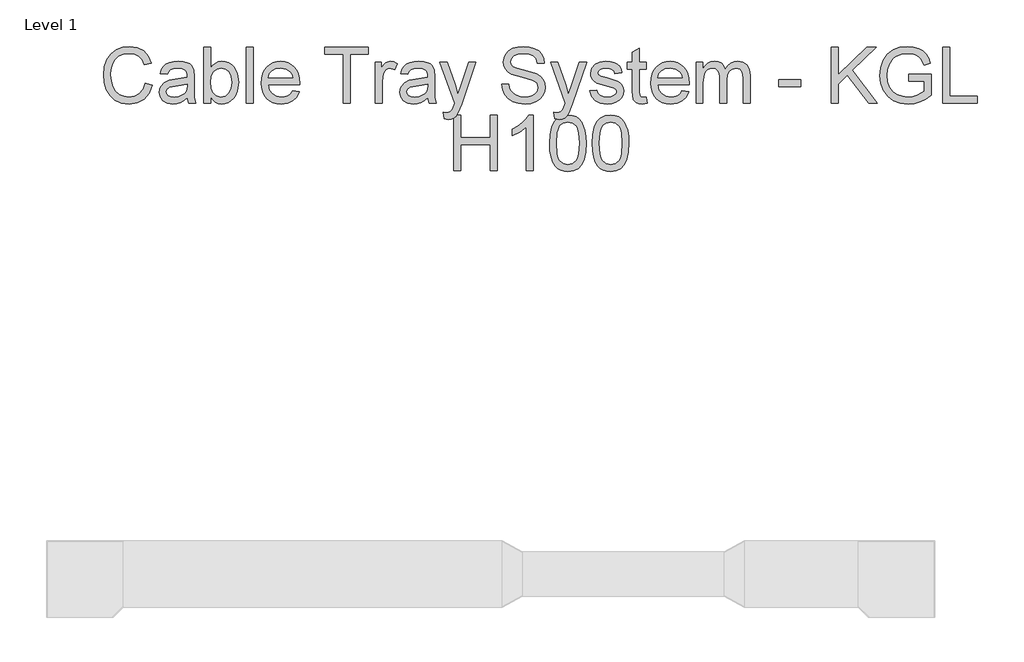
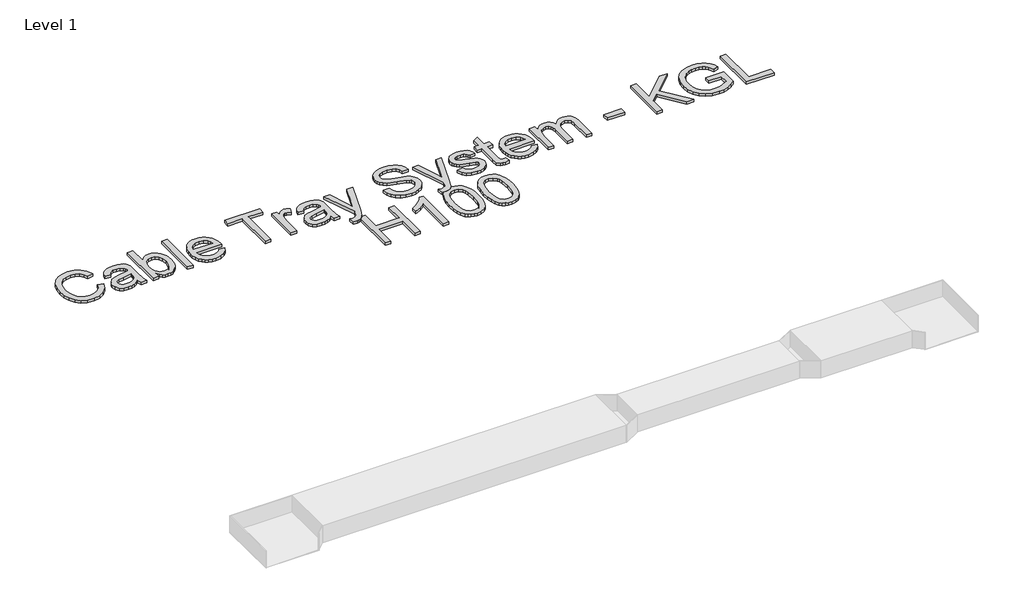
# One storey, part 105 of 106: 1 proxy.
"""IFC4 building model written with IfcOpenShell, lengths in millimetres."""

from ifc_helpers import new_model, si_unit, origin, origin_with_axes, place, context, project, spatial, polyline, outline, extrude, element, save

model = new_model("IFC4")

# Units and contexts
model_context = context("Model", 3, world=origin())
ifc_project = project(units=[si_unit("LENGTHUNIT", "METRE", prefix="MILLI")], contexts=[model_context])

# Site, building, storey
site = spatial("IfcSite", under=ifc_project)
building = spatial("IfcBuilding", under=site)
storey = spatial("IfcBuildingStorey", under=building, Name="Level 1", Elevation=0.0)

# Proxy
placement = place(None, origin())
element("IfcBuildingElementProxy", 1, Name="250mm Arial 3", ObjectType="250mm Arial 3", at=placement, inside=storey, context=model_context, shape_type="SweptSolid", body=[
    extrude(outline(polyline([(165651.7804894, 71592.4106539), (165683.1730863, 71584.31725), (165668.6877328, 71547.7359841), (165645.9556912, 71521.01089), (165616.0959359, 71504.6631338), (165580.2274414, 71499.2138818), (165543.814788, 71503.3372258), (165514.8977304, 71515.7072579), (165492.7328402, 71535.8947824), (165476.5766892, 71563.4706036), (165466.7128532, 71595.8902044), (165463.4249079, 71630.6090677), (165467.1420489, 71667.2286547), (165478.2934719, 71698.8511778), (165496.296697, 71724.472626), (165520.5692445, 71743.0889877), (165549.3560106, 71754.4243517), (165580.9018917, 71758.2028064), (165615.3218509, 71753.3130415), (165643.779056, 71738.643747), (165665.384459, 71715.0992993), (165679.2490117, 71683.584075), (165647.8564148, 71676.1038078), (165636.9732391, 71698.9967978), (165622.1046751, 71714.7007605), (165603.0667819, 71723.7828472), (165579.6756184, 71726.8102095), (165552.7129338, 71723.4532863), (165530.563372, 71713.3825166), (165513.7557634, 71697.6555613), (165502.8189382, 71677.3300811), (165496.8178632, 71654.3527848), (165494.8175048, 71630.6703814), (165497.1857452, 71601.6690174), (165504.2904662, 71576.5917281), (165516.3999152, 71556.3965394), (165533.7823395, 71542.0414774), (165554.6213216, 71533.4652284), (165577.1004444, 71530.6064787), (165603.3043723, 71534.4998965), (165625.1397016, 71546.1801498), (165641.6254135, 71565.5246114), (165651.7804894, 71592.4106539)])), origin_with_axes(), (0.0, 0.0, 1.0), 15.0),
    extrude(outline(polyline([(165840.1360709, 71526.6824041), (165825.1372154, 71513.8218627), (165809.6938358, 71505.406562), (165793.4533786, 71500.7620518), (165776.0632901, 71499.2138818), (165749.8287053, 71502.938687), (165730.4765796, 71514.1131026), (165718.5434073, 71531.0816596), (165714.5656833, 71552.1888891), (165716.0678681, 71565.2027147), (165720.5744225, 71577.0209238), (165736.3626915, 71595.0471415), (165758.3436407, 71605.3478374), (165785.5055947, 71610.0689897), (165839.95213, 71620.8601949), (165840.1360709, 71627.8499528), (165837.9747642, 71641.8601254), (165831.4908441, 71651.0265185), (165816.9901621, 71657.8323354), (165796.7873092, 71660.100941), (165778.0866411, 71658.591092), (165765.0268303, 71654.0615449), (165756.1210203, 71645.6845653), (165749.8823548, 71632.6324187), (165718.4897579, 71636.5564933), (165723.9390099, 71653.7243198), (165732.0707349, 71667.2133262), (165743.6436893, 71677.5293505), (165759.4166298, 71685.1782303), (165778.707442, 71689.914711), (165800.8340111, 71691.4935379), (165822.0562037, 71690.098652), (165838.8791408, 71685.9139943), (165851.5634054, 71679.6216794), (165860.3695807, 71671.9038217), (165869.9958262, 71650.5973228), (165871.5286679, 71623.1288005), (165871.5286679, 71584.0719953), (165873.1228232, 71529.5334895), (165879.3768171, 71503.1379564), (165847.9842202, 71503.1379564), (165840.1360709, 71526.6824041)]), holes=[polyline([(165840.1360709, 71589.4675979), (165789.4909829, 71579.8413524), (165762.4823131, 71574.7523181), (165750.2502368, 71566.4749732), (165745.9582802, 71554.3961811), (165748.2958637, 71545.0611754), (165755.3086142, 71537.4122956), (165766.8432476, 71532.3079329), (165782.7464797, 71530.6064787), (165799.6077378, 71532.4842097), (165814.5069586, 71538.1174028), (165826.5857508, 71546.4177403), (165834.985723, 71556.2969047), (165838.7105282, 71566.4749732), (165839.95213, 71580.5771164), (165840.1360709, 71589.4675979)])]), origin_with_axes(), (0.0, 0.0, 1.0), 15.0),
    extrude(outline(polyline([(165946.0860856, 71503.1379564), (165914.6934886, 71503.1379564), (165914.6934886, 71754.2787318), (165946.0860856, 71754.2787318), (165946.0860856, 71661.1432733), (165956.409774, 71674.4215141), (165968.0670348, 71683.9059718), (165981.0578677, 71689.5966464), (165995.3822729, 71691.4935379), (166011.5537523, 71689.7844195), (166026.8361835, 71684.6570642), (166040.3558468, 71676.4333687), (166051.2390225, 71665.4352299), (166066.2302138, 71635.5448178), (166071.6564732, 71598.1128248), (166066.0386086, 71556.2049342), (166059.0162778, 71539.2746982), (166049.1850147, 71525.0269351), (166037.3840501, 71513.7337243), (166024.4526147, 71505.6671451), (166010.3907087, 71500.8271976), (165995.1983319, 71499.2138818), (165980.4025779, 71501.2947143), (165967.2852855, 71507.5372119), (165955.8464547, 71517.9413746), (165946.0860856, 71532.5072023), (165946.0860856, 71503.1379564)]), holes=[polyline([(165946.0860856, 71596.6412968), (165948.2320639, 71570.4603615), (165954.6699988, 71552.7407121), (165971.1173896, 71536.140037), (165992.5005306, 71530.6064787), (166010.6187189, 71534.6838375), (166026.1004195, 71546.9159138), (166036.7230121, 71567.2260656), (166040.2638763, 71595.5376509), (166036.8686321, 71624.2631033), (166026.6828993, 71644.3433289), (166011.6840438, 71656.161538), (165993.8494313, 71660.100941), (165975.731243, 71656.0235822), (165960.2495424, 71643.7915059), (165949.6269498, 71623.8492361), (165946.0860856, 71596.6412968)])]), origin_with_axes(), (0.0, 0.0, 1.0), 15.0),
    extrude(outline(polyline([(166106.9731448, 71503.1379564), (166106.9731448, 71754.2787318), (166138.3657417, 71754.2787318), (166138.3657417, 71503.1379564), (166106.9731448, 71503.1379564)])), origin_with_axes(), (0.0, 0.0, 1.0), 15.0),
    extrude(outline(polyline([(166314.5812174, 71558.075001), (166345.3606777, 71554.1509264), (166334.2705683, 71530.9590323), (166316.5739115, 71513.6225933), (166292.6692461, 71502.8160596), (166262.9551107, 71499.2138818), (166243.4765255, 71500.7678), (166226.120926, 71505.4295547), (166210.8883121, 71513.1991458), (166197.7786839, 71524.0765733), (166187.2365655, 71537.759101), (166179.7064809, 71553.9439928), (166175.1884302, 71572.6312485), (166173.6824132, 71593.8208682), (166175.2037586, 71615.7290074), (166179.7677946, 71635.0389801), (166187.3745212, 71651.7507861), (166198.0239386, 71665.8644256), (166211.0990778, 71677.0771622), (166225.9829702, 71685.0862598), (166242.6756158, 71689.8917184), (166261.1770144, 71691.4935379), (166279.0825209, 71689.8955505), (166295.2750769, 71685.1015883), (166309.7546823, 71677.1116512), (166322.5213371, 71665.9257393), (166332.9427443, 71651.8427566), (166340.3866065, 71635.1616074), (166344.8529239, 71615.8822916), (166346.3416963, 71594.0048092), (166346.1577553, 71585.5435233), (166205.0750102, 71585.5435233), (166210.5089338, 71562.0450609), (166223.1318848, 71544.7699355), (166241.3497077, 71534.1473429), (166263.5682474, 71530.6064787), (166280.2762213, 71532.2466193), (166294.3477077, 71537.1670409), (166305.7827063, 71545.6743121), (166314.5812174, 71558.075001)]), holes=[polyline([(166205.0750102, 71616.9361202), (166314.9490994, 71616.9361202), (166310.703128, 71633.5214669), (166302.3797979, 71645.3856612), (166284.0776686, 71656.4221211), (166261.0543871, 71660.100941), (166239.8935082, 71657.1655493), (166222.3961208, 71648.359374), (166210.2330223, 71634.632777), (166205.0750102, 71616.9361202)])]), origin_with_axes(), (0.0, 0.0, 1.0), 15.0),
    extrude(outline(polyline([(166542.5454271, 71503.1379564), (166542.5454271, 71722.8861348), (166460.1398602, 71722.8861348), (166460.1398602, 71754.2787318), (166656.3435909, 71754.2787318), (166656.3435909, 71722.8861348), (166573.938024, 71722.8861348), (166573.938024, 71503.1379564), (166542.5454271, 71503.1379564)])), origin_with_axes(), (0.0, 0.0, 1.0), 15.0),
    extrude(outline(polyline([(166687.7361878, 71503.1379564), (166687.7361878, 71687.5694633), (166715.2047101, 71687.5694633), (166715.2047101, 71660.284882), (166725.3521218, 71676.1038078), (166734.7024559, 71685.423485), (166754.322829, 71691.4935379), (166769.9578138, 71689.0716481), (166785.8380532, 71681.8059787), (166775.3534164, 71653.6630061), (166753.2804966, 71660.100941), (166743.90717, 71658.5527709), (166735.5301904, 71653.9082608), (166724.217819, 71636.7404343), (166719.1287848, 71600.0748621), (166719.1287848, 71503.1379564), (166687.7361878, 71503.1379564)])), origin_with_axes(), (0.0, 0.0, 1.0), 15.0),
    extrude(outline(polyline([(166923.1806647, 71526.6824041), (166908.1818092, 71513.8218627), (166892.7384296, 71505.406562), (166876.4979724, 71500.7620518), (166859.1078839, 71499.2138818), (166832.8732991, 71502.938687), (166813.5211734, 71514.1131026), (166801.5880011, 71531.0816596), (166797.6102771, 71552.1888891), (166799.1124619, 71565.2027147), (166803.6190163, 71577.0209238), (166819.4072853, 71595.0471415), (166841.3882345, 71605.3478374), (166868.5501885, 71610.0689897), (166922.9967238, 71620.8601949), (166923.1806647, 71627.8499528), (166921.019358, 71641.8601254), (166914.5354379, 71651.0265185), (166900.0347559, 71657.8323354), (166879.831903, 71660.100941), (166861.1312349, 71658.591092), (166848.0714241, 71654.0615449), (166839.1656141, 71645.6845653), (166832.9269486, 71632.6324187), (166801.5343517, 71636.5564933), (166806.9836037, 71653.7243198), (166815.1153287, 71667.2133262), (166826.6882831, 71677.5293505), (166842.4612236, 71685.1782303), (166861.7520358, 71689.914711), (166883.8786049, 71691.4935379), (166905.1007975, 71690.098652), (166921.9237346, 71685.9139943), (166934.6079992, 71679.6216794), (166943.4141745, 71671.9038217), (166953.04042, 71650.5973228), (166954.5732617, 71623.1288005), (166954.5732617, 71584.0719953), (166956.167417, 71529.5334895), (166962.4214109, 71503.1379564), (166931.028814, 71503.1379564), (166923.1806647, 71526.6824041)]), holes=[polyline([(166923.1806647, 71589.4675979), (166872.5355767, 71579.8413524), (166845.5269069, 71574.7523181), (166833.2948306, 71566.4749732), (166829.002874, 71554.3961811), (166831.3404575, 71545.0611754), (166838.353208, 71537.4122956), (166849.8878414, 71532.3079329), (166865.7910735, 71530.6064787), (166882.6523316, 71532.4842097), (166897.5515524, 71538.1174028), (166909.6303446, 71546.4177403), (166918.0303168, 71556.2969047), (166921.755122, 71566.4749732), (166922.9967238, 71580.5771164), (166923.1806647, 71589.4675979)])]), origin_with_axes(), (0.0, 0.0, 1.0), 15.0),
    extrude(outline(polyline([(166997.7380824, 71432.5046133), (166993.8140078, 71462.7322506), (167009.7555609, 71459.9731356), (167024.6547818, 71463.4373577), (167033.790518, 71473.0942601), (167042.3744312, 71496.2095122), (167044.8269778, 71503.8124067), (166978.1177094, 71687.5694633), (167011.1657753, 71687.5694633), (167046.6050741, 71585.1143277), (167058.929121, 71544.1567989), (167071.2531678, 71580.3931754), (167107.6121717, 71687.5694633), (167140.4149829, 71687.5694633), (167076.2195747, 71498.7233725), (167059.5422576, 71457.7658437), (167051.0043297, 71444.6907044), (167041.3320989, 71435.6316103), (167030.111698, 71430.3433066), (167016.9292599, 71428.5805387), (166997.7380824, 71432.5046133)])), origin_with_axes(), (0.0, 0.0, 1.0), 15.0),
    extrude(outline(polyline([(167256.727007, 71589.4675979), (167288.119604, 71589.4675979), (167291.7217818, 71572.0468526), (167298.2363588, 71558.0443442), (167308.3990989, 71546.9312422), (167322.9457662, 71538.1787164), (167340.7267293, 71532.4995381), (167360.592357, 71530.6064787), (167378.0820802, 71532.0396856), (167393.3951682, 71536.3393065), (167405.8035214, 71543.1451234), (167414.5790398, 71552.0969186), (167419.7983656, 71562.3746218), (167421.5381409, 71573.1581628), (167416.3264793, 71592.7478791), (167408.3863596, 71600.4963936), (167394.9893236, 71607.0033064), (167349.2799857, 71618.990128), (167300.0757688, 71634.4718287), (167284.4484482, 71645.0331076), (167273.3736673, 71657.8323354), (167266.774784, 71672.5936004), (167264.5751563, 71689.0409913), (167267.2959502, 71707.4274268), (167275.458332, 71724.5722607), (167288.8477037, 71739.1035995), (167307.2494677, 71749.64955), (167329.3377158, 71756.0644923), (167353.7865401, 71758.2028064), (167380.2740438, 71755.9648576), (167403.4506095, 71749.2510112), (167422.4885027, 71738.1992229), (167436.559989, 71722.9474485), (167445.465799, 71704.4460498), (167449.0066632, 71683.6453887), (167417.6140663, 71683.6453887), (167411.8505817, 71702.3767136), (167399.8331032, 71715.8963769), (167381.055793, 71724.0817513), (167355.0128134, 71726.8102095), (167328.3566972, 71724.1124082), (167310.0698963, 71716.0190043), (167299.493289, 71704.1088247), (167295.9677532, 71689.9606963), (167298.4662851, 71677.8972325), (167305.9618807, 71668.1943449), (167323.6815302, 71659.5184612), (167357.2201054, 71650.6586365), (167412.7702867, 71634.9010243), (167430.6662129, 71623.5120109), (167443.1512081, 71609.455853), (167450.4858554, 71592.8858348), (167452.9307378, 71573.9552405), (167450.1179734, 71554.6031147), (167441.6796801, 71536.4006201), (167427.9607474, 71520.7349785), (167409.3060645, 71508.9934115), (167386.872927, 71501.6587642), (167361.8186303, 71499.2138818), (167331.0621627, 71501.8503694), (167305.7472829, 71509.7598323), (167285.582751, 71522.9729273), (167270.2773272, 71541.5203112), (167260.4518122, 71564.1143971), (167256.727007, 71589.4675979)])), origin_with_axes(), (0.0, 0.0, 1.0), 15.0),
    extrude(outline(polyline([(167496.0955586, 71432.5046133), (167492.171484, 71462.7322506), (167508.1130371, 71459.9731356), (167523.0122579, 71463.4373577), (167532.1479941, 71473.0942601), (167540.7319073, 71496.2095122), (167543.184454, 71503.8124067), (167476.4751855, 71687.5694633), (167509.5232514, 71687.5694633), (167544.9625503, 71585.1143277), (167557.2865971, 71544.1567989), (167569.6106439, 71580.3931754), (167605.9696478, 71687.5694633), (167638.772459, 71687.5694633), (167574.5770509, 71498.7233725), (167557.8997338, 71457.7658437), (167549.3618058, 71444.6907044), (167539.689575, 71435.6316103), (167528.4691741, 71430.3433066), (167515.286736, 71428.5805387), (167496.0955586, 71432.5046133)])), origin_with_axes(), (0.0, 0.0, 1.0), 15.0),
    extrude(outline(polyline([(167653.0585432, 71558.075001), (167684.4511401, 71561.9990756), (167689.4022186, 71548.5713828), (167698.9824789, 71538.6998826), (167713.2532346, 71532.6298297), (167732.2757995, 71530.6064787), (167751.0684381, 71532.4612171), (167764.2815331, 71538.0254323), (167772.0990255, 71546.0881793), (167774.7048563, 71555.4385134), (167772.083697, 71563.4399468), (167764.2202194, 71569.5406565), (167731.9079175, 71578.4924517), (167684.6350811, 71593.851525), (167672.671252, 71601.5693827), (167664.0030325, 71611.7857723), (167658.7377215, 71623.8492361), (167656.9826178, 71637.1083163), (167662.6234751, 71660.4994798), (167678.0132052, 71678.3724134), (167697.9708034, 71687.6614338), (167724.9794732, 71691.4935379), (167745.4122524, 71689.9530321), (167763.1778871, 71685.3315145), (167777.4639712, 71678.0811735), (167787.4580988, 71668.6541974), (167794.0799747, 71656.3531432), (167798.2493039, 71640.4805679), (167766.856707, 71636.5564933), (167762.8943114, 71646.4356577), (167755.0538263, 71653.8776039), (167743.2586099, 71658.5451067), (167727.4320199, 71660.100941), (167709.4058021, 71658.6140846), (167697.3883236, 71654.1535154), (167690.6284919, 71647.7155805), (167688.3752147, 71640.2966269), (167692.1153483, 71631.1608907), (167703.8262585, 71624.2324465), (167730.8655852, 71617.5492569), (167776.9428051, 71602.7726634), (167789.1135677, 71595.7062634), (167798.3412744, 71586.0340326), (167804.1584085, 71573.7253142), (167806.0974532, 71558.7494513), (167803.8211833, 71543.2677507), (167796.9923738, 71528.7057551), (167785.8716076, 71516.2054314), (167770.719468, 71506.9087468), (167752.4173387, 71501.137598), (167731.8466038, 71499.2138818), (167700.1934238, 71502.9233586), (167677.0935002, 71514.0517889), (167661.6731132, 71532.4765455), (167653.0585432, 71558.075001)])), origin_with_axes(), (0.0, 0.0, 1.0), 15.0),
    extrude(outline(polyline([(167908.1233932, 71529.3188917), (167912.0474678, 71502.2182514), (167888.5643338, 71499.2138818), (167873.4965004, 71500.5167972), (167862.2607711, 71504.4255434), (167849.1396466, 71518.0984909), (167845.3381993, 71553.7217307), (167845.3381993, 71656.1768664), (167821.7937516, 71656.1768664), (167821.7937516, 71687.5694633), (167845.3381993, 71687.5694633), (167845.3381993, 71732.3897531), (167876.7307962, 71750.8451665), (167876.7307962, 71687.5694633), (167908.1233932, 71687.5694633), (167908.1233932, 71656.1768664), (167876.7307962, 71656.1768664), (167876.7307962, 71554.6414357), (167878.3862652, 71538.4546279), (167883.751211, 71532.7218002), (167894.4504457, 71530.6064787), (167908.1233932, 71529.3188917)])), origin_with_axes(), (0.0, 0.0, 1.0), 15.0),
    extrude(outline(polyline([(168068.6425704, 71558.075001), (168099.4220307, 71554.1509264), (168088.3319213, 71530.9590323), (168070.6352645, 71513.6225933), (168046.7305991, 71502.8160596), (168017.0164637, 71499.2138818), (167997.5378785, 71500.7678), (167980.182279, 71505.4295547), (167964.9496651, 71513.1991458), (167951.8400369, 71524.0765733), (167941.2979185, 71537.759101), (167933.7678339, 71553.9439928), (167929.2497832, 71572.6312485), (167927.7437662, 71593.8208682), (167929.2651116, 71615.7290074), (167933.8291476, 71635.0389801), (167941.4358743, 71651.7507861), (167952.0852916, 71665.8644256), (167965.1604308, 71677.0771622), (167980.0443232, 71685.0862598), (167996.7369688, 71689.8917184), (168015.2383674, 71691.4935379), (168033.1438739, 71689.8955505), (168049.3364299, 71685.1015883), (168063.8160353, 71677.1116512), (168076.5826901, 71665.9257393), (168087.0040973, 71651.8427566), (168094.4479595, 71635.1616074), (168098.9142769, 71615.8822916), (168100.4030493, 71594.0048092), (168100.2191083, 71585.5435233), (167959.1363632, 71585.5435233), (167964.5702868, 71562.0450609), (167977.1932378, 71544.7699355), (167995.4110607, 71534.1473429), (168017.6296004, 71530.6064787), (168034.3375743, 71532.2466193), (168048.4090607, 71537.1670409), (168059.8440593, 71545.6743121), (168068.6425704, 71558.075001)]), holes=[polyline([(167959.1363632, 71616.9361202), (168069.0104524, 71616.9361202), (168064.764481, 71633.5214669), (168056.4411509, 71645.3856612), (168038.1390216, 71656.4221211), (168015.1157401, 71660.100941), (167993.9548612, 71657.1655493), (167976.4574738, 71648.359374), (167964.2943753, 71634.632777), (167959.1363632, 71616.9361202)])]), origin_with_axes(), (0.0, 0.0, 1.0), 15.0),
    extrude(outline(polyline([(168131.7956462, 71503.1379564), (168131.7956462, 71687.5694633), (168163.1882432, 71687.5694633), (168163.1882432, 71657.2191987), (168172.6305477, 71671.1603935), (168184.7706535, 71682.0818902), (168199.1946934, 71689.140626), (168215.4888001, 71691.4935379), (168232.9478665, 71689.0946407), (168246.9427107, 71681.8979492), (168257.3966908, 71670.3786442), (168264.2331645, 71655.0119067), (168275.6758274, 71670.9726204), (168288.727974, 71682.3731301), (168303.3896044, 71689.213436), (168319.6607184, 71691.4935379), (168343.2588156, 71687.6997549), (168360.7102177, 71676.3184056), (168371.4937587, 71657.0429219), (168375.0882724, 71629.5667354), (168375.0882724, 71503.1379564), (168343.6956755, 71503.1379564), (168343.6956755, 71616.0777289), (168340.7832763, 71642.2893211), (168330.2373258, 71655.1958477), (168312.3030785, 71660.100941), (168295.2962005, 71656.9586156), (168281.4316478, 71647.5316395), (168272.2116053, 71631.1762191), (168269.1382578, 71607.248561), (168269.1382578, 71503.1379564), (168237.7456608, 71503.1379564), (168237.7456608, 71619.5726079), (168235.9292435, 71637.3229141), (168230.4799914, 71649.9841861), (168220.8920669, 71657.5717523), (168206.6596323, 71660.100941), (168194.5655117, 71658.4148152), (168183.4217529, 71653.3564378), (168174.224703, 71645.048436), (168167.9707091, 71633.6134374), (168163.1882432, 71596.1507875), (168163.1882432, 71503.1379564), (168131.7956462, 71503.1379564)])), origin_with_axes(), (0.0, 0.0, 1.0), 15.0),
    extrude(outline(polyline([(168504.5827347, 71577.6953741), (168504.5827347, 71609.087971), (168602.6846001, 71609.087971), (168602.6846001, 71577.6953741), (168504.5827347, 71577.6953741)])), origin_with_axes(), (0.0, 0.0, 1.0), 15.0),
    extrude(outline(polyline([(168740.0272116, 71503.1379564), (168740.0272116, 71754.2787318), (168771.4198085, 71754.2787318), (168771.4198085, 71631.3448317), (168900.1785068, 71754.2787318), (168944.0790916, 71754.2787318), (168835.921785, 71651.0265185), (168948.0031662, 71503.1379564), (168909.6208114, 71503.1379564), (168813.6649243, 71629.8119901), (168771.4198085, 71589.4675979), (168771.4198085, 71503.1379564), (168740.0272116, 71503.1379564)])), origin_with_axes(), (0.0, 0.0, 1.0), 15.0),
    extrude(outline(polyline([(169089.2698523, 71601.2398218), (169089.2698523, 71632.6324187), (169191.2957923, 71632.6324187), (169191.2957923, 71538.7611963), (169166.5020787, 71521.5167277), (169140.9266158, 71509.1466957), (169114.6307174, 71501.6970852), (169087.675697, 71499.2138818), (169052.4586602, 71503.160949), (169020.6292034, 71515.0021507), (168994.187685, 71534.3236197), (168975.1344633, 71560.7114886), (168963.6151584, 71592.3646686), (168959.77539, 71627.4820708), (168963.59983, 71662.8523918), (168975.0731497, 71695.7548377), (168993.7201683, 71723.3536515), (169019.0657049, 71742.8130763), (169049.9371357, 71754.3553739), (169085.1618367, 71758.2028064), (169111.0208753, 71755.9725218), (169134.2740831, 71749.281668), (169153.8561351, 71738.6130901), (169168.7017065, 71724.4496333), (169179.6845169, 71706.109183), (169187.6782861, 71682.9096247), (169158.7382358, 71674.7549071), (169144.4214948, 71703.7869279), (169134.0288284, 71713.1985756), (169119.9573421, 71720.5255587), (169103.1803903, 71725.2390468), (169084.6713274, 71726.8102095), (169063.0046107, 71725.1164194), (169044.4802194, 71720.0350494), (169029.1671314, 71712.2022286), (169017.1343245, 71702.2540863), (169000.9781735, 71678.0658451), (168993.6205336, 71654.3681132), (168991.167987, 71628.7696577), (168994.1187071, 71598.7489541), (169002.9708676, 71574.047211), (169017.4562212, 71554.8407051), (169037.3065205, 71541.3057134), (169060.5367357, 71533.2812874), (169085.1618367, 71530.6064787), (169106.9051955, 71532.6221655), (169128.1120597, 71538.6692258), (169159.9031954, 71555.867709), (169159.9031954, 71601.2398218), (169089.2698523, 71601.2398218)])), origin_with_axes(), (0.0, 0.0, 1.0), 15.0),
    extrude(outline(polyline([(169242.3087623, 71503.1379564), (169242.3087623, 71754.2787318), (169273.7013593, 71754.2787318), (169273.7013593, 71534.5305533), (169399.271747, 71534.5305533), (169399.271747, 71503.1379564), (169242.3087623, 71503.1379564)])), origin_with_axes(), (0.0, 0.0, 1.0), 15.0),
    extrude(outline(polyline([(167040.9029032, 71198.2009118), (167040.9029032, 71449.3416872), (167072.2955001, 71449.3416872), (167072.2955001, 71347.3157472), (167205.714037, 71347.3157472), (167205.714037, 71449.3416872), (167237.106634, 71449.3416872), (167237.106634, 71198.2009118), (167205.714037, 71198.2009118), (167205.714037, 71315.9231502), (167072.2955001, 71315.9231502), (167072.2955001, 71198.2009118), (167040.9029032, 71198.2009118)])), origin_with_axes(), (0.0, 0.0, 1.0), 15.0),
    extrude(outline(polyline([(167397.9936932, 71198.2009118), (167366.6010963, 71198.2009118), (167366.6010963, 71393.9141332), (167336.8639683, 71372.7302617), (167303.8159024, 71356.880679), (167303.8159024, 71386.5564933), (167328.4716603, 71399.9688577), (167349.8318087, 71415.9257393), (167366.6700741, 71432.8942963), (167377.7601835, 71449.3416872), (167397.9936932, 71449.3416872), (167397.9936932, 71198.2009118)])), origin_with_axes(), (0.0, 0.0, 1.0), 15.0),
    extrude(outline(polyline([(167472.5511109, 71321.7479485), (167474.8580376, 71361.9467207), (167481.7788176, 71394.0061037), (167493.2444731, 71418.4166069), (167509.1860262, 71435.6687397), (167529.7184401, 71445.9234503), (167554.9566778, 71449.3416872), (167574.3011394, 71447.3183362), (167591.62225, 71441.2482833), (167606.1076035, 71431.3691189), (167616.944794, 71417.9184334), (167631.6600738, 71380.7623519), (167635.936702, 71355.0489333), (167637.3622447, 71321.7479485), (167635.0783107, 71281.7791026), (167628.2265085, 71249.7963616), (167616.8298309, 71225.3628658), (167600.9112704, 71208.0417552), (167580.3328713, 71197.7180667), (167554.9566778, 71194.2768372), (167537.666224, 71195.7713578), (167522.3378076, 71200.2549196), (167508.9714284, 71207.7275226), (167497.5670866, 71218.1891669), (167486.6225972, 71237.1006007), (167478.8051048, 71260.6642089), (167474.1146094, 71288.8799915), (167472.5511109, 71321.7479485)]), holes=[polyline([(167503.9437078, 71321.8092622), (167507.6225278, 71272.4287685), (167512.2210527, 71255.5387696), (167518.6589876, 71243.848936), (167535.0910501, 71230.2143096), (167554.9566778, 71225.6694341), (167574.8223055, 71230.229638), (167591.254368, 71243.9102497), (167597.6923029, 71255.6192438), (167602.2908278, 71272.5054106), (167605.9696478, 71321.8092622), (167602.4134552, 71370.0784456), (167597.9682144, 71386.912879), (167591.7448773, 71398.8805402), (167575.3434717, 71413.1819527), (167554.5887958, 71417.9490902), (167534.9377659, 71413.7491041), (167519.1494969, 71401.1491458), (167512.4969642, 71388.1199918), (167507.7451551, 71370.5536265), (167503.9437078, 71321.8092622)])]), origin_with_axes(), (0.0, 0.0, 1.0), 15.0),
    extrude(outline(polyline([(167664.830767, 71321.7479485), (167667.1376937, 71361.9467207), (167674.0584737, 71394.0061037), (167685.5241293, 71418.4166069), (167701.4656824, 71435.6687397), (167721.9980962, 71445.9234503), (167747.2363339, 71449.3416872), (167766.5807955, 71447.3183362), (167783.9019061, 71441.2482833), (167798.3872597, 71431.3691189), (167809.2244501, 71417.9184334), (167823.9397299, 71380.7623519), (167828.2163581, 71355.0489333), (167829.6419009, 71321.7479485), (167827.3579668, 71281.7791026), (167820.5061647, 71249.7963616), (167809.109487, 71225.3628658), (167793.1909265, 71208.0417552), (167772.6125274, 71197.7180667), (167747.2363339, 71194.2768372), (167729.9458802, 71195.7713578), (167714.6174637, 71200.2549196), (167701.2510845, 71207.7275226), (167689.8467427, 71218.1891669), (167678.9022533, 71237.1006007), (167671.0847609, 71260.6642089), (167666.3942655, 71288.8799915), (167664.830767, 71321.7479485)]), holes=[polyline([(167696.2233639, 71321.8092622), (167699.9021839, 71272.4287685), (167704.5007088, 71255.5387696), (167710.9386438, 71243.848936), (167727.3707062, 71230.2143096), (167747.2363339, 71225.6694341), (167767.1019617, 71230.229638), (167783.5340241, 71243.9102497), (167789.9719591, 71255.6192438), (167794.570484, 71272.5054106), (167798.2493039, 71321.8092622), (167794.6931113, 71370.0784456), (167790.2478705, 71386.912879), (167784.0245335, 71398.8805402), (167767.6231278, 71413.1819527), (167746.8684519, 71417.9490902), (167727.217422, 71413.7491041), (167711.4291531, 71401.1491458), (167704.7766203, 71388.1199918), (167700.0248112, 71370.5536265), (167696.2233639, 71321.8092622)])]), origin_with_axes(), (0.0, 0.0, 1.0), 15.0),
])

save(model, "model.ifc")
